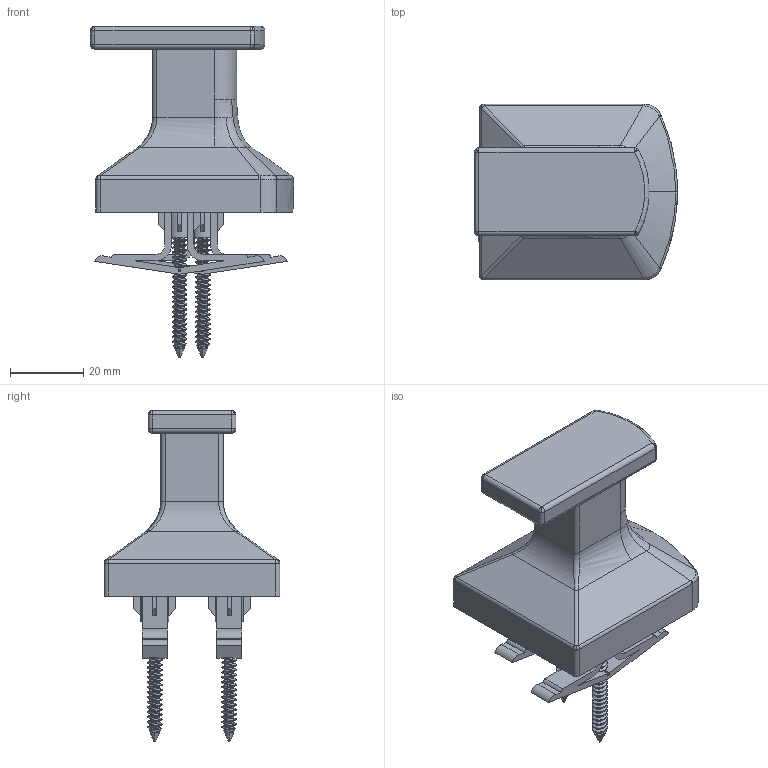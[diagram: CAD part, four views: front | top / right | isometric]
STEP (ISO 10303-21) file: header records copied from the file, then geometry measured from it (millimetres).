
FILE_DESCRIPTION (( 'STEP AP214' ), '1' );
FILE_NAME ('493RH.STEP', '2025-01-02T03:01:26', ( '' ), ( '' ), 'SwSTEP 2.0', 'SolidWorks 2023', '' );
FILE_SCHEMA (( 'AUTOMOTIVE_DESIGN' ));
Length unit declared in the file: inch
Products named in the file (1): 493RH
Bounding box: 55.4 x 48 x 90.35 mm (x, y, z)
Surface area: 20123.1 mm2 (no closed solid volume)
Topology: 0 solids, 9 shells, 423 faces, 1222 edges, 789 vertices
Faces by surface type: cylinder 150, plane 134, bspline 97, sphere 28, cone 12, torus 2
Entity records: 27661 total; most frequent: CARTESIAN_POINT 17846, ORIENTED_EDGE 2261, DIRECTION 1557, EDGE_CURVE 1222, VERTEX_POINT 789, VECTOR 541, LINE 541, AXIS2_PLACEMENT_3D 508
